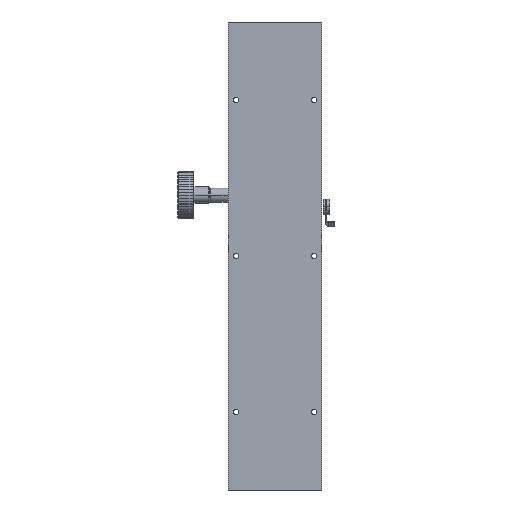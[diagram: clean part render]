
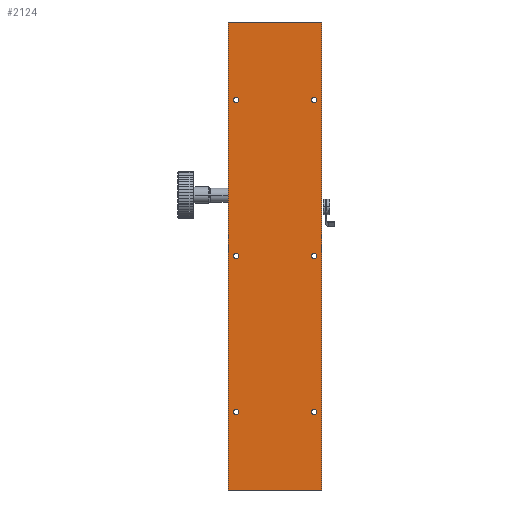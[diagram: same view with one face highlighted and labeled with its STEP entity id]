
A CAD part, front view. The second image highlights one B-rep face of the part: STEP entity #2124.
In plain terms, the highlighted planar face has unit normal (0, 1, 0).
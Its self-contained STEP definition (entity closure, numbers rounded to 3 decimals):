
#15 = CARTESIAN_POINT ( 'NONE',  ( -28.124, -10.381, 450. ) ) ;
#21 = DIRECTION ( 'NONE',  ( 0., 0., 1. ) ) ;
#114 = CARTESIAN_POINT ( 'NONE',  ( -23.124, -10.381, 198.25 ) ) ;
#119 = EDGE_LOOP ( 'NONE', ( #4343, #2772 ) ) ;
#144 = CIRCLE ( 'NONE', #9149, 1.75 ) ;
#262 = VERTEX_POINT ( 'NONE', #4245 ) ;
#290 = AXIS2_PLACEMENT_3D ( 'NONE', #6096, #8744, #21 ) ;
#464 = DIRECTION ( 'NONE',  ( -1., 0., 0. ) ) ;
#475 = CARTESIAN_POINT ( 'NONE',  ( 26.876, -10.381, 298.25 ) ) ;
#482 = EDGE_CURVE ( 'NONE', #592, #4061, #7277, .T. ) ;
#561 = VERTEX_POINT ( 'NONE', #1430 ) ;
#592 = VERTEX_POINT ( 'NONE', #10261 ) ;
#628 = CIRCLE ( 'NONE', #290, 1.75 ) ;
#678 = CIRCLE ( 'NONE', #8886, 1.75 ) ;
#761 = EDGE_CURVE ( 'NONE', #262, #7812, #9903, .T. ) ;
#896 = DIRECTION ( 'NONE',  ( 0., -1., 0. ) ) ;
#1087 = LINE ( 'NONE', #15, #10464 ) ;
#1115 = FACE_BOUND ( 'NONE', #2022, .T. ) ;
#1196 = ORIENTED_EDGE ( 'NONE', *, *, #6344, .T. ) ;
#1264 = EDGE_CURVE ( 'NONE', #2493, #561, #678, .T. ) ;
#1272 = FACE_OUTER_BOUND ( 'NONE', #4146, .T. ) ;
#1430 = CARTESIAN_POINT ( 'NONE',  ( -23.124, -10.381, 398.25 ) ) ;
#1650 = CARTESIAN_POINT ( 'NONE',  ( -23.124, -10.381, 400. ) ) ;
#1666 = CIRCLE ( 'NONE', #3496, 1.75 ) ;
#1690 = CARTESIAN_POINT ( 'NONE',  ( -28.124, -10.381, 150. ) ) ;
#1694 = DIRECTION ( 'NONE',  ( 0., -1., 0. ) ) ;
#1746 = VECTOR ( 'NONE', #11228, 1000. ) ;
#1759 = CARTESIAN_POINT ( 'NONE',  ( 31.876, -10.381, 150. ) ) ;
#1830 = CARTESIAN_POINT ( 'NONE',  ( -23.124, -10.381, 201.75 ) ) ;
#1859 = DIRECTION ( 'NONE',  ( 0., -1., 0. ) ) ;
#1909 = AXIS2_PLACEMENT_3D ( 'NONE', #3490, #896, #2559 ) ;
#1943 = CIRCLE ( 'NONE', #8748, 1.75 ) ;
#2022 = EDGE_LOOP ( 'NONE', ( #7381, #7488 ) ) ;
#2124 = ADVANCED_FACE ( 'NONE', ( #7161, #8571, #1115, #3350, #2253, #4853, #1272 ), #7482, .T. ) ;
#2172 = ORIENTED_EDGE ( 'NONE', *, *, #8284, .T. ) ;
#2242 = DIRECTION ( 'NONE',  ( 0., 1., 0. ) ) ;
#2253 = FACE_BOUND ( 'NONE', #5603, .T. ) ;
#2350 = ORIENTED_EDGE ( 'NONE', *, *, #10678, .T. ) ;
#2423 = CARTESIAN_POINT ( 'NONE',  ( -23.124, -10.381, 301.75 ) ) ;
#2425 = VERTEX_POINT ( 'NONE', #1830 ) ;
#2493 = VERTEX_POINT ( 'NONE', #10772 ) ;
#2504 = DIRECTION ( 'NONE',  ( 0., -1., 0. ) ) ;
#2530 = CIRCLE ( 'NONE', #7499, 1.75 ) ;
#2559 = DIRECTION ( 'NONE',  ( 0., 0., 1. ) ) ;
#2642 = EDGE_LOOP ( 'NONE', ( #6210, #7829 ) ) ;
#2650 = CARTESIAN_POINT ( 'NONE',  ( 26.876, -10.381, 301.75 ) ) ;
#2652 = CIRCLE ( 'NONE', #9775, 1.75 ) ;
#2654 = DIRECTION ( 'NONE',  ( 0., -1., 0. ) ) ;
#2761 = DIRECTION ( 'NONE',  ( 0., 0., 1. ) ) ;
#2772 = ORIENTED_EDGE ( 'NONE', *, *, #8620, .T. ) ;
#2854 = DIRECTION ( 'NONE',  ( 0., -1., 0. ) ) ;
#3031 = EDGE_CURVE ( 'NONE', #561, #2493, #2652, .T. ) ;
#3337 = EDGE_CURVE ( 'NONE', #11137, #10793, #1943, .T. ) ;
#3350 = FACE_BOUND ( 'NONE', #5653, .T. ) ;
#3402 = EDGE_CURVE ( 'NONE', #4585, #11315, #1087, .T. ) ;
#3490 = CARTESIAN_POINT ( 'NONE',  ( -23.124, -10.381, 300. ) ) ;
#3496 = AXIS2_PLACEMENT_3D ( 'NONE', #7202, #4621, #2761 ) ;
#3523 = CIRCLE ( 'NONE', #5666, 1.75 ) ;
#3533 = DIRECTION ( 'NONE',  ( 0., 0., 1. ) ) ;
#3604 = ORIENTED_EDGE ( 'NONE', *, *, #6183, .T. ) ;
#3605 = CARTESIAN_POINT ( 'NONE',  ( 26.876, -10.381, 400. ) ) ;
#3656 = DIRECTION ( 'NONE',  ( 0., 0., 1. ) ) ;
#3856 = CARTESIAN_POINT ( 'NONE',  ( -28.124, -10.381, 450. ) ) ;
#3898 = EDGE_LOOP ( 'NONE', ( #11167, #9203 ) ) ;
#3902 = DIRECTION ( 'NONE',  ( 0., 0., 1. ) ) ;
#3911 = CARTESIAN_POINT ( 'NONE',  ( -23.124, -10.381, 400. ) ) ;
#4061 = VERTEX_POINT ( 'NONE', #11080 ) ;
#4146 = EDGE_LOOP ( 'NONE', ( #6590, #5114, #2350, #4584 ) ) ;
#4188 = VERTEX_POINT ( 'NONE', #1759 ) ;
#4224 = EDGE_CURVE ( 'NONE', #7812, #262, #4272, .T. ) ;
#4245 = CARTESIAN_POINT ( 'NONE',  ( 26.876, -10.381, 401.75 ) ) ;
#4272 = CIRCLE ( 'NONE', #6107, 1.75 ) ;
#4343 = ORIENTED_EDGE ( 'NONE', *, *, #7582, .T. ) ;
#4584 = ORIENTED_EDGE ( 'NONE', *, *, #8119, .T. ) ;
#4585 = VERTEX_POINT ( 'NONE', #9242 ) ;
#4621 = DIRECTION ( 'NONE',  ( 0., -1., 0. ) ) ;
#4638 = VECTOR ( 'NONE', #7928, 1000. ) ;
#4853 = FACE_BOUND ( 'NONE', #3898, .T. ) ;
#5092 = CARTESIAN_POINT ( 'NONE',  ( -28.124, -10.381, 450. ) ) ;
#5114 = ORIENTED_EDGE ( 'NONE', *, *, #3402, .T. ) ;
#5153 = DIRECTION ( 'NONE',  ( 0., 0., 1. ) ) ;
#5176 = CIRCLE ( 'NONE', #1909, 1.75 ) ;
#5197 = CARTESIAN_POINT ( 'NONE',  ( 31.876, -10.381, 450. ) ) ;
#5275 = CARTESIAN_POINT ( 'NONE',  ( 26.876, -10.381, 300. ) ) ;
#5329 = CARTESIAN_POINT ( 'NONE',  ( -23.124, -10.381, 298.25 ) ) ;
#5539 = CARTESIAN_POINT ( 'NONE',  ( 26.876, -10.381, 300. ) ) ;
#5603 = EDGE_LOOP ( 'NONE', ( #3604, #2172 ) ) ;
#5604 = VERTEX_POINT ( 'NONE', #1690 ) ;
#5630 = ORIENTED_EDGE ( 'NONE', *, *, #3337, .T. ) ;
#5631 = DIRECTION ( 'NONE',  ( 0., -1., 0. ) ) ;
#5653 = EDGE_LOOP ( 'NONE', ( #1196, #5630 ) ) ;
#5666 = AXIS2_PLACEMENT_3D ( 'NONE', #5539, #7369, #3902 ) ;
#5685 = CARTESIAN_POINT ( 'NONE',  ( 26.876, -10.381, 398.25 ) ) ;
#6036 = DIRECTION ( 'NONE',  ( 0., 0., 1. ) ) ;
#6096 = CARTESIAN_POINT ( 'NONE',  ( 26.876, -10.381, 200. ) ) ;
#6107 = AXIS2_PLACEMENT_3D ( 'NONE', #3605, #2654, #3533 ) ;
#6144 = EDGE_CURVE ( 'NONE', #4061, #592, #628, .T. ) ;
#6183 = EDGE_CURVE ( 'NONE', #10275, #8067, #5176, .T. ) ;
#6198 = DIRECTION ( 'NONE',  ( 0., 0., 1. ) ) ;
#6210 = ORIENTED_EDGE ( 'NONE', *, *, #6144, .T. ) ;
#6220 = CARTESIAN_POINT ( 'NONE',  ( 26.876, -10.381, 200. ) ) ;
#6344 = EDGE_CURVE ( 'NONE', #10793, #11137, #3523, .T. ) ;
#6498 = CARTESIAN_POINT ( 'NONE',  ( -23.124, -10.381, 300. ) ) ;
#6526 = DIRECTION ( 'NONE',  ( 0., 0., 1. ) ) ;
#6590 = ORIENTED_EDGE ( 'NONE', *, *, #9874, .T. ) ;
#6816 = CARTESIAN_POINT ( 'NONE',  ( -23.124, -10.381, 200. ) ) ;
#6958 = VERTEX_POINT ( 'NONE', #114 ) ;
#7161 = FACE_BOUND ( 'NONE', #2642, .T. ) ;
#7202 = CARTESIAN_POINT ( 'NONE',  ( -23.124, -10.381, 200. ) ) ;
#7277 = CIRCLE ( 'NONE', #9972, 1.75 ) ;
#7369 = DIRECTION ( 'NONE',  ( 0., -1., 0. ) ) ;
#7381 = ORIENTED_EDGE ( 'NONE', *, *, #1264, .T. ) ;
#7482 = PLANE ( 'NONE',  #8825 ) ;
#7488 = ORIENTED_EDGE ( 'NONE', *, *, #3031, .T. ) ;
#7499 = AXIS2_PLACEMENT_3D ( 'NONE', #6816, #11247, #6036 ) ;
#7582 = EDGE_CURVE ( 'NONE', #2425, #6958, #2530, .T. ) ;
#7812 = VERTEX_POINT ( 'NONE', #5685 ) ;
#7829 = ORIENTED_EDGE ( 'NONE', *, *, #482, .T. ) ;
#7865 = LINE ( 'NONE', #7990, #8403 ) ;
#7928 = DIRECTION ( 'NONE',  ( 0., 0., 1. ) ) ;
#7953 = DIRECTION ( 'NONE',  ( 0., 0., 1. ) ) ;
#7990 = CARTESIAN_POINT ( 'NONE',  ( -28.124, -10.381, 150. ) ) ;
#8024 = DIRECTION ( 'NONE',  ( -1., 0., 0. ) ) ;
#8067 = VERTEX_POINT ( 'NONE', #5329 ) ;
#8119 = EDGE_CURVE ( 'NONE', #4188, #5604, #7865, .T. ) ;
#8241 = DIRECTION ( 'NONE',  ( 0., -1., 0. ) ) ;
#8284 = EDGE_CURVE ( 'NONE', #8067, #10275, #144, .T. ) ;
#8403 = VECTOR ( 'NONE', #8024, 1000. ) ;
#8571 = FACE_BOUND ( 'NONE', #119, .T. ) ;
#8620 = EDGE_CURVE ( 'NONE', #6958, #2425, #1666, .T. ) ;
#8674 = CARTESIAN_POINT ( 'NONE',  ( 31.876, -10.381, 450. ) ) ;
#8744 = DIRECTION ( 'NONE',  ( 0., -1., 0. ) ) ;
#8748 = AXIS2_PLACEMENT_3D ( 'NONE', #5275, #1859, #6198 ) ;
#8825 = AXIS2_PLACEMENT_3D ( 'NONE', #3856, #2242, #464 ) ;
#8886 = AXIS2_PLACEMENT_3D ( 'NONE', #1650, #1694, #7953 ) ;
#8986 = DIRECTION ( 'NONE',  ( 0., 0., 1. ) ) ;
#9149 = AXIS2_PLACEMENT_3D ( 'NONE', #6498, #5631, #8986 ) ;
#9203 = ORIENTED_EDGE ( 'NONE', *, *, #4224, .T. ) ;
#9242 = CARTESIAN_POINT ( 'NONE',  ( -28.124, -10.381, 450. ) ) ;
#9311 = LINE ( 'NONE', #5092, #4638 ) ;
#9563 = CARTESIAN_POINT ( 'NONE',  ( 26.876, -10.381, 400. ) ) ;
#9705 = LINE ( 'NONE', #8674, #1746 ) ;
#9775 = AXIS2_PLACEMENT_3D ( 'NONE', #3911, #8241, #6526 ) ;
#9803 = DIRECTION ( 'NONE',  ( 1., 0., 0. ) ) ;
#9874 = EDGE_CURVE ( 'NONE', #5604, #4585, #9311, .T. ) ;
#9903 = CIRCLE ( 'NONE', #10644, 1.75 ) ;
#9972 = AXIS2_PLACEMENT_3D ( 'NONE', #6220, #2854, #3656 ) ;
#10261 = CARTESIAN_POINT ( 'NONE',  ( 26.876, -10.381, 198.25 ) ) ;
#10275 = VERTEX_POINT ( 'NONE', #2423 ) ;
#10464 = VECTOR ( 'NONE', #9803, 1000. ) ;
#10644 = AXIS2_PLACEMENT_3D ( 'NONE', #9563, #2504, #5153 ) ;
#10678 = EDGE_CURVE ( 'NONE', #11315, #4188, #9705, .T. ) ;
#10772 = CARTESIAN_POINT ( 'NONE',  ( -23.124, -10.381, 401.75 ) ) ;
#10793 = VERTEX_POINT ( 'NONE', #2650 ) ;
#11080 = CARTESIAN_POINT ( 'NONE',  ( 26.876, -10.381, 201.75 ) ) ;
#11137 = VERTEX_POINT ( 'NONE', #475 ) ;
#11167 = ORIENTED_EDGE ( 'NONE', *, *, #761, .T. ) ;
#11228 = DIRECTION ( 'NONE',  ( 0., 0., -1. ) ) ;
#11247 = DIRECTION ( 'NONE',  ( 0., -1., 0. ) ) ;
#11315 = VERTEX_POINT ( 'NONE', #5197 ) ;
